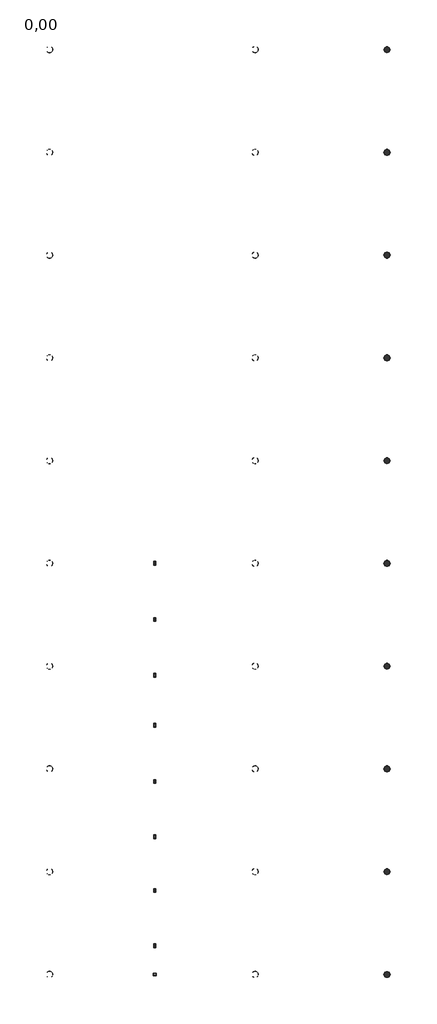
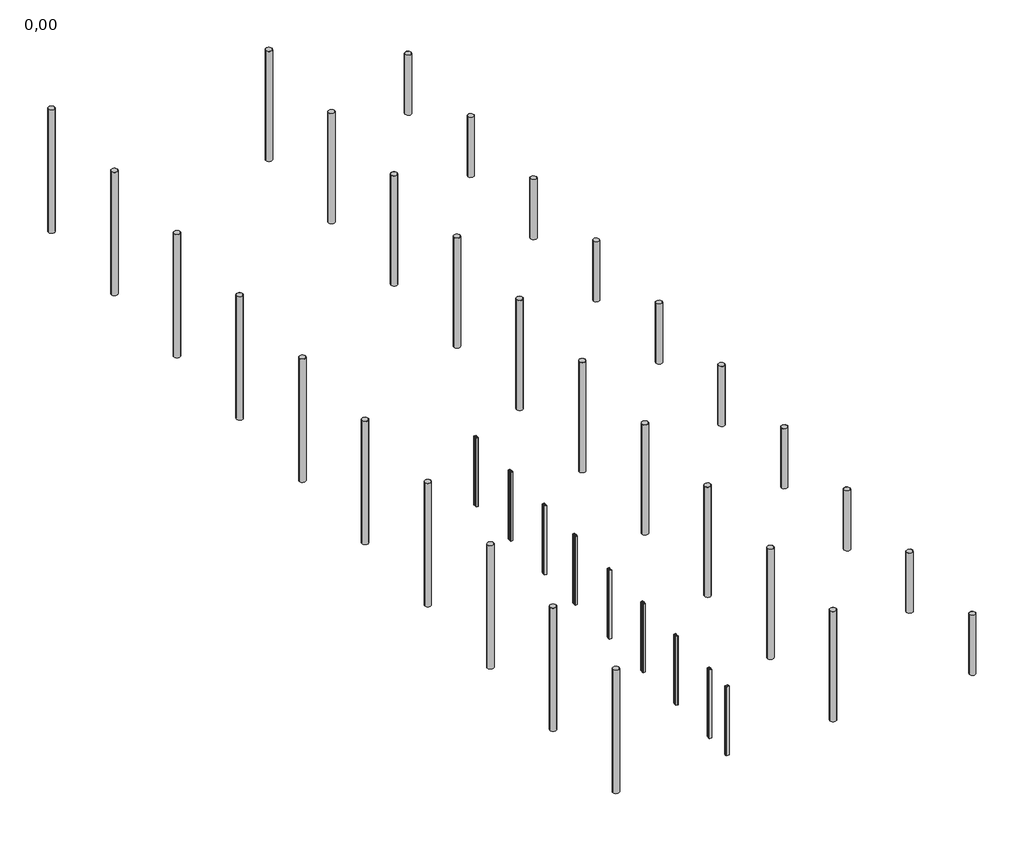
# One storey: 55 columns.
"""IFC4 building model written with IfcOpenShell, lengths in millimetres."""

from ifc_helpers import new_model, si_unit, origin, place, context, project, spatial, transform, mapped, element, save
from components import c120_7a4876d0, c120_c8b7eb78, c180_2d3c2f65, r355_6x10_7112e704, r355_6x10_451059c9, r355_6x10_06c2b0f0

model = new_model("IFC4")

# Units and contexts
model_context = context("Model", 3, world=origin())
ifc_project = project(units=[si_unit("LENGTHUNIT", "METRE", prefix="MILLI")], contexts=[model_context])

# Site, building, storey
site = spatial("IfcSite", under=ifc_project)
building = spatial("IfcBuilding", under=site)
storey = spatial("IfcBuildingStorey", under=building, Name="0,00", Elevation=0.0)

# Columns
placement = place(None, origin())
c120_shape = c120_7a4876d0(model_context)
element("IfcColumn", 1, ObjectType="RPLN C - Ceowniki normalne_Column : C120", at=placement, inside=storey, context=model_context, shape_type="MappedRepresentation", body=[
    mapped(c120_shape, transform((-1957.0111104, -12818.4816585, 0.0), x_axis=(0.0, -1.0, 0.0), y_axis=(1.0, 0.0, 0.0), z_axis=(0.0, 0.0, 1.0))),
])
element("IfcColumn", 2, ObjectType="RPLN C - Ceowniki normalne_Column : C120", at=placement, inside=storey, context=model_context, shape_type="MappedRepresentation", body=[
    mapped(c120_shape, transform((-1957.0111104, -13006.4816585, 0.0), x_axis=(0.0, 1.0, 0.0), y_axis=(-1.0, 0.0, 0.0), z_axis=(0.0, 0.0, 1.0))),
])
element("IfcColumn", 3, ObjectType="RPLN C - Ceowniki normalne_Column : C120", at=placement, inside=storey, context=model_context, shape_type="MappedRepresentation", body=[
    mapped(c120_shape, transform((-1957.0111104, -16098.4816585, 0.0), x_axis=(0.0, -1.0, 0.0), y_axis=(1.0, 0.0, 0.0), z_axis=(0.0, 0.0, 1.0))),
])
element("IfcColumn", 4, ObjectType="RPLN C - Ceowniki normalne_Column : C120", at=placement, inside=storey, context=model_context, shape_type="MappedRepresentation", body=[
    mapped(c120_shape, transform((-1957.0111104, -16286.4816585, 0.0), x_axis=(0.0, 1.0, 0.0), y_axis=(-1.0, 0.0, 0.0), z_axis=(0.0, 0.0, 1.0))),
])
element("IfcColumn", 5, ObjectType="RPLN C - Ceowniki normalne_Column : C120", at=placement, inside=storey, context=model_context, shape_type="MappedRepresentation", body=[
    mapped(c120_shape, transform((-1957.0111104, -19348.4816585, 0.0), x_axis=(0.0, -1.0, 0.0), y_axis=(1.0, 0.0, 0.0), z_axis=(0.0, 0.0, 1.0))),
])
element("IfcColumn", 6, ObjectType="RPLN C - Ceowniki normalne_Column : C120", at=placement, inside=storey, context=model_context, shape_type="MappedRepresentation", body=[
    mapped(c120_shape, transform((-1957.0111104, -19536.4816585, 0.0), x_axis=(0.0, 1.0, 0.0), y_axis=(-1.0, 0.0, 0.0), z_axis=(0.0, 0.0, 1.0))),
])
element("IfcColumn", 7, ObjectType="RPLN C - Ceowniki normalne_Column : C120", at=placement, inside=storey, context=model_context, shape_type="MappedRepresentation", body=[
    mapped(c120_shape, transform((-1957.0111104, -22268.4816585, 0.0), x_axis=(0.0, -1.0, 0.0), y_axis=(1.0, 0.0, 0.0), z_axis=(0.0, 0.0, 1.0))),
])
element("IfcColumn", 8, ObjectType="RPLN C - Ceowniki normalne_Column : C120", at=placement, inside=storey, context=model_context, shape_type="MappedRepresentation", body=[
    mapped(c120_shape, transform((-1957.0111104, -22456.4816585, 0.0), x_axis=(0.0, 1.0, 0.0), y_axis=(-1.0, 0.0, 0.0), z_axis=(0.0, 0.0, 1.0))),
])
element("IfcColumn", 9, ObjectType="RPLN C - Ceowniki normalne_Column : C120", at=placement, inside=storey, context=model_context, shape_type="MappedRepresentation", body=[
    mapped(c120_shape, transform((-1957.0111104, -25558.4816585, 0.0), x_axis=(0.0, -1.0, 0.0), y_axis=(1.0, 0.0, 0.0), z_axis=(0.0, 0.0, 1.0))),
])
element("IfcColumn", 10, ObjectType="RPLN C - Ceowniki normalne_Column : C120", at=placement, inside=storey, context=model_context, shape_type="MappedRepresentation", body=[
    mapped(c120_shape, transform((-1957.0111104, -25746.4816585, 0.0), x_axis=(0.0, 1.0, 0.0), y_axis=(-1.0, 0.0, 0.0), z_axis=(0.0, 0.0, 1.0))),
])
element("IfcColumn", 11, ObjectType="RPLN C - Ceowniki normalne_Column : C120", at=placement, inside=storey, context=model_context, shape_type="MappedRepresentation", body=[
    mapped(c120_shape, transform((-1957.0111104, -28778.4816585, 0.0), x_axis=(0.0, -1.0, 0.0), y_axis=(1.0, 0.0, 0.0), z_axis=(0.0, 0.0, 1.0))),
])
element("IfcColumn", 12, ObjectType="RPLN C - Ceowniki normalne_Column : C120", at=placement, inside=storey, context=model_context, shape_type="MappedRepresentation", body=[
    mapped(c120_shape, transform((-1957.0111104, -28966.4816585, 0.0), x_axis=(0.0, 1.0, 0.0), y_axis=(-1.0, 0.0, 0.0), z_axis=(0.0, 0.0, 1.0))),
])
element("IfcColumn", 13, ObjectType="RPLN C - Ceowniki normalne_Column : C120", at=placement, inside=storey, context=model_context, shape_type="MappedRepresentation", body=[
    mapped(c120_shape, transform((-1957.0111104, -31918.4816585, 0.0), x_axis=(0.0, -1.0, 0.0), y_axis=(1.0, 0.0, 0.0), z_axis=(0.0, 0.0, 1.0))),
])
element("IfcColumn", 14, ObjectType="RPLN C - Ceowniki normalne_Column : C120", at=placement, inside=storey, context=model_context, shape_type="MappedRepresentation", body=[
    mapped(c120_shape, transform((-1957.0111104, -32106.4816585, 0.0), x_axis=(0.0, 1.0, 0.0), y_axis=(-1.0, 0.0, 0.0), z_axis=(0.0, 0.0, 1.0))),
])
element("IfcColumn", 15, ObjectType="RPLN C - Ceowniki normalne_Column : C120", at=placement, inside=storey, context=model_context, shape_type="MappedRepresentation", body=[
    mapped(c120_shape, transform((-1957.0111104, -35138.4816585, 0.0), x_axis=(0.0, -1.0, 0.0), y_axis=(1.0, 0.0, 0.0), z_axis=(0.0, 0.0, 1.0))),
])
element("IfcColumn", 16, ObjectType="RPLN C - Ceowniki normalne_Column : C120", at=placement, inside=storey, context=model_context, shape_type="MappedRepresentation", body=[
    mapped(c120_shape, transform((-1957.0111104, -35326.4816585, 0.0), x_axis=(0.0, 1.0, 0.0), y_axis=(-1.0, 0.0, 0.0), z_axis=(0.0, 0.0, 1.0))),
])
c120_2_shape = c120_c8b7eb78(model_context)
element("IfcColumn", 17, ObjectType="RPLN C - Ceowniki normalne_Column -x2 : C120", at=placement, inside=storey, context=model_context, shape_type="MappedRepresentation", body=[
    mapped(c120_2_shape, transform((-1957.0111104, -12912.4816585, 0.0), x_axis=(0.0, 1.0, 0.0), y_axis=(-1.0, 0.0, 0.0), z_axis=(0.0, 0.0, 1.0))),
])
element("IfcColumn", 18, ObjectType="RPLN C - Ceowniki normalne_Column -x2 : C120", at=placement, inside=storey, context=model_context, shape_type="MappedRepresentation", body=[
    mapped(c120_2_shape, transform((-1957.0111104, -16192.4816585, 0.0), x_axis=(0.0, -1.0, 0.0), y_axis=(1.0, 0.0, 0.0), z_axis=(0.0, 0.0, 1.0))),
])
element("IfcColumn", 19, ObjectType="RPLN C - Ceowniki normalne_Column -x2 : C120", at=placement, inside=storey, context=model_context, shape_type="MappedRepresentation", body=[
    mapped(c120_2_shape, transform((-1957.0111104, -19442.4816585, 0.0), x_axis=(0.0, -1.0, 0.0), y_axis=(1.0, 0.0, 0.0), z_axis=(0.0, 0.0, 1.0))),
])
element("IfcColumn", 20, ObjectType="RPLN C - Ceowniki normalne_Column -x2 : C120", at=placement, inside=storey, context=model_context, shape_type="MappedRepresentation", body=[
    mapped(c120_2_shape, transform((-1957.0111104, -22362.4816585, 0.0), x_axis=(0.0, -1.0, 0.0), y_axis=(1.0, 0.0, 0.0), z_axis=(0.0, 0.0, 1.0))),
])
element("IfcColumn", 21, ObjectType="RPLN C - Ceowniki normalne_Column -x2 : C120", at=placement, inside=storey, context=model_context, shape_type="MappedRepresentation", body=[
    mapped(c120_2_shape, transform((-1957.0111104, -25652.4816585, 0.0), x_axis=(0.0, -1.0, 0.0), y_axis=(1.0, 0.0, 0.0), z_axis=(0.0, 0.0, 1.0))),
])
element("IfcColumn", 22, ObjectType="RPLN C - Ceowniki normalne_Column -x2 : C120", at=placement, inside=storey, context=model_context, shape_type="MappedRepresentation", body=[
    mapped(c120_2_shape, transform((-1957.0111104, -28872.4816585, 0.0), x_axis=(0.0, -1.0, 0.0), y_axis=(1.0, 0.0, 0.0), z_axis=(0.0, 0.0, 1.0))),
])
element("IfcColumn", 23, ObjectType="RPLN C - Ceowniki normalne_Column -x2 : C120", at=placement, inside=storey, context=model_context, shape_type="MappedRepresentation", body=[
    mapped(c120_2_shape, transform((-1957.0111104, -32012.4816585, 0.0), x_axis=(0.0, -1.0, 0.0), y_axis=(1.0, 0.0, 0.0), z_axis=(0.0, 0.0, 1.0))),
])
element("IfcColumn", 24, ObjectType="RPLN C - Ceowniki normalne_Column -x2 : C120", at=placement, inside=storey, context=model_context, shape_type="MappedRepresentation", body=[
    mapped(c120_2_shape, transform((-1957.0111104, -35232.4816585, 0.0), x_axis=(0.0, -1.0, 0.0), y_axis=(1.0, 0.0, 0.0), z_axis=(0.0, 0.0, 1.0))),
])
c180_shape = c180_2d3c2f65(model_context)
element("IfcColumn", 25, ObjectType="RPLN C - Ceowniki normalne_Column -x2 : C180", at=placement, inside=storey, context=model_context, shape_type="MappedRepresentation", body=[
    mapped(c180_shape, transform((-1957.0111104, -36912.4816585, 0.0), x_axis=(0.0, 1.0, 0.0), y_axis=(-1.0, 0.0, 0.0), z_axis=(0.0, 0.0, 1.0))),
])
r355_6x10_shape = r355_6x10_7112e704(model_context)
element("IfcColumn", 26, ObjectType="RPLN RO - Rury okragle_Column : R355.6x10", at=placement, inside=storey, context=model_context, shape_type="MappedRepresentation", body=[
    mapped(r355_6x10_shape, transform((11602.963474, -36912.4816585, 0.0), x_axis=(-1.0, 0.0, 0.0), y_axis=(0.0, -1.0, 0.0), z_axis=(0.0, 0.0, 1.0))),
])
element("IfcColumn", 27, ObjectType="RPLN RO - Rury okragle_Column : R355.6x10", at=placement, inside=storey, context=model_context, shape_type="MappedRepresentation", body=[
    mapped(r355_6x10_shape, transform((11602.963474, -30912.4816585, 0.0), x_axis=(-1.0, 0.0, 0.0), y_axis=(0.0, -1.0, 0.0), z_axis=(0.0, 0.0, 1.0))),
])
element("IfcColumn", 28, ObjectType="RPLN RO - Rury okragle_Column : R355.6x10", at=placement, inside=storey, context=model_context, shape_type="MappedRepresentation", body=[
    mapped(r355_6x10_shape, transform((11602.963474, -24912.4816585, 0.0), x_axis=(-1.0, 0.0, 0.0), y_axis=(0.0, -1.0, 0.0), z_axis=(0.0, 0.0, 1.0))),
])
element("IfcColumn", 29, ObjectType="RPLN RO - Rury okragle_Column : R355.6x10", at=placement, inside=storey, context=model_context, shape_type="MappedRepresentation", body=[
    mapped(r355_6x10_shape, transform((11602.963474, -18912.4816585, 0.0), x_axis=(-1.0, 0.0, 0.0), y_axis=(0.0, -1.0, 0.0), z_axis=(0.0, 0.0, 1.0))),
])
element("IfcColumn", 30, ObjectType="RPLN RO - Rury okragle_Column : R355.6x10", at=placement, inside=storey, context=model_context, shape_type="MappedRepresentation", body=[
    mapped(r355_6x10_shape, transform((11602.963474, -12912.4816585, 0.0), x_axis=(-1.0, 0.0, 0.0), y_axis=(0.0, -1.0, 0.0), z_axis=(0.0, 0.0, 1.0))),
])
element("IfcColumn", 31, ObjectType="RPLN RO - Rury okragle_Column : R355.6x10", at=placement, inside=storey, context=model_context, shape_type="MappedRepresentation", body=[
    mapped(r355_6x10_shape, transform((11602.963474, -6912.4816585, 0.0), x_axis=(-1.0, 0.0, 0.0), y_axis=(0.0, -1.0, 0.0), z_axis=(0.0, 0.0, 1.0))),
])
element("IfcColumn", 32, ObjectType="RPLN RO - Rury okragle_Column : R355.6x10", at=placement, inside=storey, context=model_context, shape_type="MappedRepresentation", body=[
    mapped(r355_6x10_shape, transform((11602.963474, -912.4816585, 0.0), x_axis=(-1.0, 0.0, 0.0), y_axis=(0.0, -1.0, 0.0), z_axis=(0.0, 0.0, 1.0))),
])
element("IfcColumn", 33, ObjectType="RPLN RO - Rury okragle_Column : R355.6x10", at=placement, inside=storey, context=model_context, shape_type="MappedRepresentation", body=[
    mapped(r355_6x10_shape, transform((11602.963474, 5087.5183415, 0.0), x_axis=(1.0, 0.0, 0.0), y_axis=(0.0, 1.0, 0.0), z_axis=(0.0, 0.0, 1.0))),
])
element("IfcColumn", 34, ObjectType="RPLN RO - Rury okragle_Column : R355.6x10", at=placement, inside=storey, context=model_context, shape_type="MappedRepresentation", body=[
    mapped(r355_6x10_shape, transform((11602.963474, 11087.5183415, 0.0), x_axis=(-1.0, 0.0, 0.0), y_axis=(0.0, -1.0, 0.0), z_axis=(0.0, 0.0, 1.0))),
])
element("IfcColumn", 35, ObjectType="RPLN RO - Rury okragle_Column : R355.6x10", at=placement, inside=storey, context=model_context, shape_type="MappedRepresentation", body=[
    mapped(r355_6x10_shape, transform((11602.963474, 17087.5183415, 0.0), x_axis=(-1.0, 0.0, 0.0), y_axis=(0.0, -1.0, 0.0), z_axis=(0.0, 0.0, 1.0))),
])
r355_6x10_2_shape = r355_6x10_451059c9(model_context)
element("IfcColumn", 36, ObjectType="RPLN RO - Rury okragle_Column : R355.6x10", at=placement, inside=storey, context=model_context, shape_type="MappedRepresentation", body=[
    mapped(r355_6x10_2_shape, transform((3902.9888896, -36912.4816585, 0.0), x_axis=(-1.0, 0.0, 0.0), y_axis=(0.0, -1.0, 0.0), z_axis=(0.0, 0.0, 1.0))),
])
element("IfcColumn", 37, ObjectType="RPLN RO - Rury okragle_Column : R355.6x10", at=placement, inside=storey, context=model_context, shape_type="MappedRepresentation", body=[
    mapped(r355_6x10_2_shape, transform((3902.9888896, -30912.4816585, 0.0), x_axis=(-1.0, 0.0, 0.0), y_axis=(0.0, -1.0, 0.0), z_axis=(0.0, 0.0, 1.0))),
])
element("IfcColumn", 38, ObjectType="RPLN RO - Rury okragle_Column : R355.6x10", at=placement, inside=storey, context=model_context, shape_type="MappedRepresentation", body=[
    mapped(r355_6x10_2_shape, transform((3902.9888896, -24912.4816585, 0.0), x_axis=(-1.0, 0.0, 0.0), y_axis=(0.0, -1.0, 0.0), z_axis=(0.0, 0.0, 1.0))),
])
element("IfcColumn", 39, ObjectType="RPLN RO - Rury okragle_Column : R355.6x10", at=placement, inside=storey, context=model_context, shape_type="MappedRepresentation", body=[
    mapped(r355_6x10_2_shape, transform((3902.9888896, -18912.4816585, 0.0), x_axis=(-1.0, 0.0, 0.0), y_axis=(0.0, -1.0, 0.0), z_axis=(0.0, 0.0, 1.0))),
])
element("IfcColumn", 40, ObjectType="RPLN RO - Rury okragle_Column : R355.6x10", at=placement, inside=storey, context=model_context, shape_type="MappedRepresentation", body=[
    mapped(r355_6x10_2_shape, transform((3902.9888896, -12912.4816585, 0.0), x_axis=(-1.0, 0.0, 0.0), y_axis=(0.0, -1.0, 0.0), z_axis=(0.0, 0.0, 1.0))),
])
element("IfcColumn", 41, ObjectType="RPLN RO - Rury okragle_Column : R355.6x10", at=placement, inside=storey, context=model_context, shape_type="MappedRepresentation", body=[
    mapped(r355_6x10_2_shape, transform((3902.9888896, -6912.4816585, 0.0), x_axis=(-1.0, 0.0, 0.0), y_axis=(0.0, -1.0, 0.0), z_axis=(0.0, 0.0, 1.0))),
])
element("IfcColumn", 42, ObjectType="RPLN RO - Rury okragle_Column : R355.6x10", at=placement, inside=storey, context=model_context, shape_type="MappedRepresentation", body=[
    mapped(r355_6x10_2_shape, transform((3902.9888896, -912.4816585, 0.0), x_axis=(-1.0, 0.0, 0.0), y_axis=(0.0, -1.0, 0.0), z_axis=(0.0, 0.0, 1.0))),
])
element("IfcColumn", 43, ObjectType="RPLN RO - Rury okragle_Column : R355.6x10", at=placement, inside=storey, context=model_context, shape_type="MappedRepresentation", body=[
    mapped(r355_6x10_2_shape, transform((3902.9888896, 5087.5183415, 0.0), x_axis=(1.0, 0.0, 0.0), y_axis=(0.0, 1.0, 0.0), z_axis=(0.0, 0.0, 1.0))),
])
element("IfcColumn", 44, ObjectType="RPLN RO - Rury okragle_Column : R355.6x10", at=placement, inside=storey, context=model_context, shape_type="MappedRepresentation", body=[
    mapped(r355_6x10_2_shape, transform((3902.9888896, 11087.5183415, 0.0), x_axis=(-1.0, 0.0, 0.0), y_axis=(0.0, -1.0, 0.0), z_axis=(0.0, 0.0, 1.0))),
])
element("IfcColumn", 45, ObjectType="RPLN RO - Rury okragle_Column : R355.6x10", at=placement, inside=storey, context=model_context, shape_type="MappedRepresentation", body=[
    mapped(r355_6x10_2_shape, transform((3902.9888896, 17087.5183415, 0.0), x_axis=(-1.0, 0.0, 0.0), y_axis=(0.0, -1.0, 0.0), z_axis=(0.0, 0.0, 1.0))),
])
r355_6x10_3_shape = r355_6x10_06c2b0f0(model_context)
element("IfcColumn", 46, ObjectType="RPLN RO - Rury okragle_Column : R355.6x10", at=placement, inside=storey, context=model_context, shape_type="MappedRepresentation", body=[
    mapped(r355_6x10_3_shape, transform((-8097.0111104, -36912.4816585, 0.0), x_axis=(-1.0, 0.0, 0.0), y_axis=(0.0, -1.0, 0.0), z_axis=(0.0, 0.0, 1.0))),
])
element("IfcColumn", 47, ObjectType="RPLN RO - Rury okragle_Column : R355.6x10", at=placement, inside=storey, context=model_context, shape_type="MappedRepresentation", body=[
    mapped(r355_6x10_3_shape, transform((-8097.0111104, -30912.4816585, 0.0), x_axis=(-1.0, 0.0, 0.0), y_axis=(0.0, -1.0, 0.0), z_axis=(0.0, 0.0, 1.0))),
])
element("IfcColumn", 48, ObjectType="RPLN RO - Rury okragle_Column : R355.6x10", at=placement, inside=storey, context=model_context, shape_type="MappedRepresentation", body=[
    mapped(r355_6x10_3_shape, transform((-8097.0111104, -24912.4816585, 0.0), x_axis=(-1.0, 0.0, 0.0), y_axis=(0.0, -1.0, 0.0), z_axis=(0.0, 0.0, 1.0))),
])
element("IfcColumn", 49, ObjectType="RPLN RO - Rury okragle_Column : R355.6x10", at=placement, inside=storey, context=model_context, shape_type="MappedRepresentation", body=[
    mapped(r355_6x10_3_shape, transform((-8097.0111104, -18912.4816585, 0.0), x_axis=(-1.0, 0.0, 0.0), y_axis=(0.0, -1.0, 0.0), z_axis=(0.0, 0.0, 1.0))),
])
element("IfcColumn", 50, ObjectType="RPLN RO - Rury okragle_Column : R355.6x10", at=placement, inside=storey, context=model_context, shape_type="MappedRepresentation", body=[
    mapped(r355_6x10_3_shape, transform((-8097.0111104, -12912.4816585, 0.0), x_axis=(-1.0, 0.0, 0.0), y_axis=(0.0, -1.0, 0.0), z_axis=(0.0, 0.0, 1.0))),
])
element("IfcColumn", 51, ObjectType="RPLN RO - Rury okragle_Column : R355.6x10", at=placement, inside=storey, context=model_context, shape_type="MappedRepresentation", body=[
    mapped(r355_6x10_3_shape, transform((-8097.0111104, -6912.4816585, 0.0), x_axis=(-1.0, 0.0, 0.0), y_axis=(0.0, -1.0, 0.0), z_axis=(0.0, 0.0, 1.0))),
])
element("IfcColumn", 52, ObjectType="RPLN RO - Rury okragle_Column : R355.6x10", at=placement, inside=storey, context=model_context, shape_type="MappedRepresentation", body=[
    mapped(r355_6x10_3_shape, transform((-8097.0111104, -912.4816585, 0.0), x_axis=(-1.0, 0.0, 0.0), y_axis=(0.0, -1.0, 0.0), z_axis=(0.0, 0.0, 1.0))),
])
element("IfcColumn", 53, ObjectType="RPLN RO - Rury okragle_Column : R355.6x10", at=placement, inside=storey, context=model_context, shape_type="MappedRepresentation", body=[
    mapped(r355_6x10_3_shape, transform((-8097.0111104, 5087.5183415, 0.0), x_axis=(1.0, 0.0, 0.0), y_axis=(0.0, 1.0, 0.0), z_axis=(0.0, 0.0, 1.0))),
])
element("IfcColumn", 54, ObjectType="RPLN RO - Rury okragle_Column : R355.6x10", at=placement, inside=storey, context=model_context, shape_type="MappedRepresentation", body=[
    mapped(r355_6x10_3_shape, transform((-8097.0111104, 11087.5183415, 0.0), x_axis=(-1.0, 0.0, 0.0), y_axis=(0.0, -1.0, 0.0), z_axis=(0.0, 0.0, 1.0))),
])
element("IfcColumn", 55, ObjectType="RPLN RO - Rury okragle_Column : R355.6x10", at=placement, inside=storey, context=model_context, shape_type="MappedRepresentation", body=[
    mapped(r355_6x10_3_shape, transform((-8097.0111104, 17087.5183415, 0.0), x_axis=(-1.0, 0.0, 0.0), y_axis=(0.0, -1.0, 0.0), z_axis=(0.0, 0.0, 1.0))),
])

save(model, "model.ifc")
